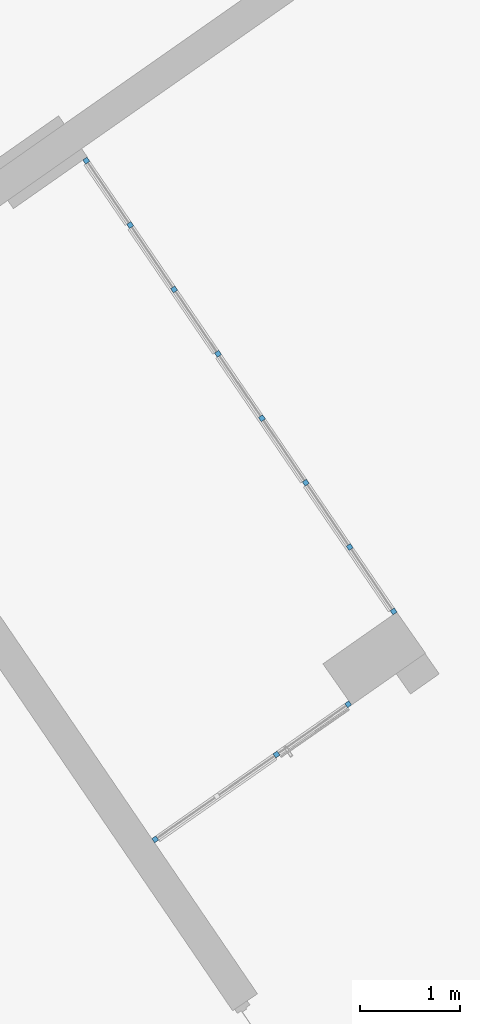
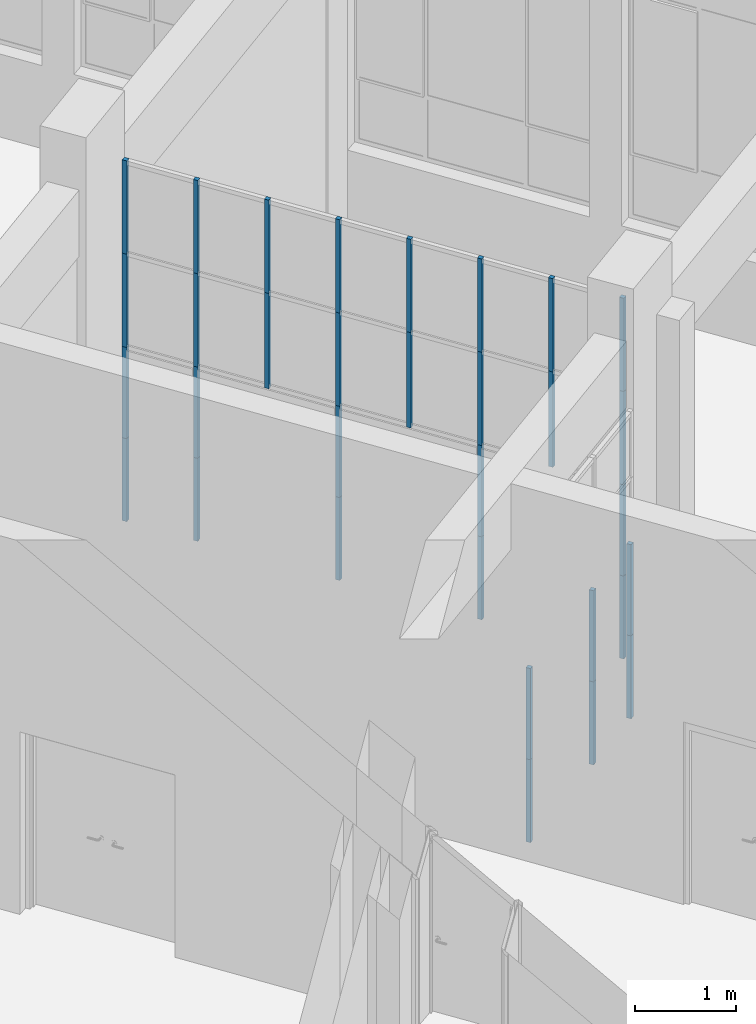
# One storey, part 24 of 157: 32 members, 2 elements without a shape of their own.
"""IFC2X3 building model written with IfcOpenShell, lengths in millimetres."""

from ifc_helpers import new_model, entity, si_unit, converted_unit, derived_unit, direction, frame, origin, origin_2d_with_axis, place, context, subcontext, project, spatial, rectangle, extrude, source, transform, mapped, material, type_object, type_shapes, element, aggregate, save


model = new_model("IFC2X3")

# Units and contexts
model_context = context("Model", 3, precision=0.01, world=origin(), true_north=direction((6.123031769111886e-17, 1.0)))
body_context = subcontext(model_context, "Body", "Model", "MODEL_VIEW")
ifc_project = project(units=[si_unit("LENGTHUNIT", "METRE", prefix="MILLI"), si_unit("AREAUNIT", "SQUARE_METRE"), si_unit("VOLUMEUNIT", "CUBIC_METRE"), converted_unit("PLANEANGLEUNIT", "DEGREE", entity("IfcRatioMeasure", 0.017453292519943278), si_unit("PLANEANGLEUNIT", "RADIAN"), dimensions=[0, 0, 0, 0, 0, 0, 0]), si_unit("MASSUNIT", "GRAM", prefix="KILO"), derived_unit("MASSDENSITYUNIT", [(si_unit("MASSUNIT", "GRAM", prefix="KILO"), 1), (si_unit("LENGTHUNIT", "METRE"), -3)]), derived_unit("MOMENTOFINERTIAUNIT", [(si_unit("LENGTHUNIT", "METRE"), 4)]), si_unit("TIMEUNIT", "SECOND"), si_unit("FREQUENCYUNIT", "HERTZ"), si_unit("THERMODYNAMICTEMPERATUREUNIT", "DEGREE_CELSIUS"), derived_unit("THERMALTRANSMITTANCEUNIT", [(si_unit("MASSUNIT", "GRAM", prefix="KILO"), 1), (si_unit("THERMODYNAMICTEMPERATUREUNIT", "KELVIN"), -1), (si_unit("TIMEUNIT", "SECOND"), -3)]), derived_unit("THERMALCONDUCTANCEUNIT", [(si_unit("MASSUNIT", "GRAM", prefix="KILO"), 1), (si_unit("LENGTHUNIT", "METRE"), 1), (si_unit("THERMODYNAMICTEMPERATUREUNIT", "KELVIN"), -1), (si_unit("TIMEUNIT", "SECOND"), -3)]), derived_unit("VOLUMETRICFLOWRATEUNIT", [(si_unit("LENGTHUNIT", "METRE"), 3), (si_unit("TIMEUNIT", "SECOND"), -1)]), derived_unit("MASSFLOWRATEUNIT", [(si_unit("MASSUNIT", "GRAM", prefix="KILO"), 1), (si_unit("TIMEUNIT", "SECOND"), -1)]), derived_unit("ROTATIONALFREQUENCYUNIT", [(si_unit("TIMEUNIT", "SECOND"), -1)]), si_unit("ELECTRICCURRENTUNIT", "AMPERE"), si_unit("ELECTRICVOLTAGEUNIT", "VOLT"), si_unit("POWERUNIT", "WATT"), converted_unit("FORCEUNIT", "KIP", entity("IfcRatioMeasure", 2.088543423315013e-05), si_unit("FORCEUNIT", "NEWTON"), dimensions=[1, 1, -2, 0, 0, 0, 0]), si_unit("ILLUMINANCEUNIT", "LUX"), si_unit("LUMINOUSFLUXUNIT", "LUMEN"), si_unit("LUMINOUSINTENSITYUNIT", "CANDELA"), derived_unit("USERDEFINED", [(si_unit("MASSUNIT", "GRAM", prefix="KILO"), -1), (si_unit("LENGTHUNIT", "METRE"), -2), (si_unit("TIMEUNIT", "SECOND"), 3), (si_unit("LUMINOUSFLUXUNIT", "LUMEN"), 1)]), derived_unit("USERDEFINED", [(si_unit("MASSUNIT", "GRAM", prefix="KILO"), 1), (si_unit("LENGTHUNIT", "METRE"), 3), (si_unit("TIMEUNIT", "SECOND"), -3), (si_unit("ELECTRICCURRENTUNIT", "AMPERE"), -2)]), derived_unit("USERDEFINED", [(si_unit("LENGTHUNIT", "METRE"), 2), (si_unit("TIMEUNIT", "SECOND"), -2)]), derived_unit("SOUNDPOWERUNIT", [(si_unit("MASSUNIT", "GRAM", prefix="KILO"), 1), (si_unit("LENGTHUNIT", "METRE"), 2), (si_unit("TIMEUNIT", "SECOND"), -3)]), derived_unit("SOUNDPRESSUREUNIT", [(si_unit("MASSUNIT", "GRAM", prefix="KILO"), 1), (si_unit("LENGTHUNIT", "METRE"), -1), (si_unit("TIMEUNIT", "SECOND"), -2)]), derived_unit("LINEARVELOCITYUNIT", [(si_unit("LENGTHUNIT", "METRE"), 1), (si_unit("TIMEUNIT", "SECOND"), -1)]), si_unit("PRESSUREUNIT", "PASCAL"), derived_unit("USERDEFINED", [(si_unit("LENGTHUNIT", "METRE"), -2), (si_unit("MASSUNIT", "GRAM", prefix="KILO"), 1), (si_unit("TIMEUNIT", "SECOND"), -2)]), derived_unit("LINEARFORCEUNIT", [(si_unit("MASSUNIT", "GRAM", prefix="KILO"), 1), (si_unit("LENGTHUNIT", "METRE"), 1), (si_unit("TIMEUNIT", "SECOND"), -2), (si_unit("LENGTHUNIT", "METRE"), -1)]), derived_unit("PLANARFORCEUNIT", [(si_unit("MASSUNIT", "GRAM", prefix="KILO"), 1), (si_unit("LENGTHUNIT", "METRE"), 1), (si_unit("TIMEUNIT", "SECOND"), -2), (si_unit("LENGTHUNIT", "METRE"), -2)]), derived_unit("SPECIFICHEATCAPACITYUNIT", [(si_unit("LENGTHUNIT", "METRE"), 2), (si_unit("TIMEUNIT", "SECOND"), -2), (si_unit("THERMODYNAMICTEMPERATUREUNIT", "KELVIN"), -1)]), derived_unit("VAPORPERMEABILITYUNIT", [(si_unit("TIMEUNIT", "SECOND"), 1), (si_unit("LENGTHUNIT", "METRE"), -1)]), derived_unit("DYNAMICVISCOSITYUNIT", [(si_unit("MASSUNIT", "GRAM", prefix="KILO"), 1), (si_unit("LENGTHUNIT", "METRE"), -1), (si_unit("TIMEUNIT", "SECOND"), -1)]), derived_unit("THERMALEXPANSIONCOEFFICIENTUNIT", [(si_unit("THERMODYNAMICTEMPERATUREUNIT", "KELVIN"), -1)])], contexts=[model_context])

# Site, building, storey
site_placement = place(None, frame((0.0, 0.0, 0.0), z_axis=(0.0, 0.0, 1.0), x_axis=(0.8191520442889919, 0.5735764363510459, 0.0)))
site = spatial("IfcSite", under=ifc_project, at=site_placement, Name="Default", CompositionType="ELEMENT")
building_placement = place(site_placement, origin())
building = spatial("IfcBuilding", under=site, at=building_placement, CompositionType="ELEMENT")
storey_placement = place(building_placement, origin())
storey = spatial("IfcBuildingStorey", under=building, at=storey_placement, Name="1.EG +0.00", CompositionType="ELEMENT", Elevation=-4.331468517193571e-12)

# Curtain wall, members
curtain_wall_type = type_object("IfcCurtainWallType", Name="Curtain Wall:Curtain_Wall_CJC_Int5", PredefinedType="NOTDEFINED")
curtain_wall_1_placement = place(storey_placement, origin())
curtain_wall_1 = element("IfcCurtainWall", 1, at=curtain_wall_1_placement, inside=storey, type_object=curtain_wall_type, Name="Curtain Wall:Curtain_Wall_CJC_Int5", ObjectType="Curtain Wall:Curtain_Wall_CJC_Int5")
ifc_material = material(Name="Aluminium")
member_type_1 = type_object("IfcMemberType", Name="Rectangular Mullion:5x5", PredefinedType="MULLION", material=ifc_material)
shared_shape_1 = source(origin(), body_context, "Body", "SweptSolid", [
    extrude(rectangle(XDim=50.000000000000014, YDim=50.0, at=origin_2d_with_axis()), frame((-25.0, 0.0, -1000.0), z_axis=(0.0, 0.0, 1.0), x_axis=(0.0, -1.0, 0.0)), (0.0, 0.0, 1.0), 1000.0000000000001),
])
type_shapes(member_type_1, [shared_shape_1])
member_1_placement = place(curtain_wall_1_placement, frame((-210986.56385903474, 145771.35891435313, 1000.0)))
member_1 = element("IfcMember", 2, at=member_1_placement, type_object=member_type_1, material=ifc_material, Name="Rectangular Mullion:5x5", ObjectType="Rectangular Mullion:5x5", context=body_context, shape_type="MappedRepresentation", body=[
    mapped(shared_shape_1, transform((0.0, 0.0, 0.0), scale=1.0)),
])
member_type_2 = type_object("IfcMemberType", Name="Rectangular Mullion:5x5", PredefinedType="MULLION", material=ifc_material)
shared_shape_2 = source(origin(), body_context, "Body", "SweptSolid", [
    extrude(rectangle(XDim=50.000000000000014, YDim=50.0, at=origin_2d_with_axis()), frame((-25.0, 0.0, -1100.0), z_axis=(0.0, 0.0, 1.0), x_axis=(0.0, -1.0, 0.0)), (0.0, 0.0, 1.0), 1100.0),
])
type_shapes(member_type_2, [shared_shape_2])
member_2_placement = place(curtain_wall_1_placement, frame((-210986.56385903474, 145771.35891435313, 2100.0)))
member_2 = element("IfcMember", 3, at=member_2_placement, type_object=member_type_2, material=ifc_material, Name="Rectangular Mullion:5x5", ObjectType="Rectangular Mullion:5x5", context=body_context, shape_type="MappedRepresentation", body=[
    mapped(shared_shape_2, transform((0.0, 0.0, 0.0), scale=1.0)),
])

# Curtain wall, member
curtain_wall_2_placement = place(storey_placement, origin())
curtain_wall_2 = element("IfcCurtainWall", 4, at=curtain_wall_2_placement, inside=storey, type_object=curtain_wall_type, Name="Curtain Wall:Curtain_Wall_CJC_Int5", ObjectType="Curtain Wall:Curtain_Wall_CJC_Int5")
member_type_3 = type_object("IfcMemberType", Name="Rectangular Mullion:5x5", PredefinedType="MULLION", material=ifc_material)
shared_shape_3 = source(origin(), body_context, "Body", "SweptSolid", [
    extrude(rectangle(XDim=49.99999999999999, YDim=50.0, at=origin_2d_with_axis()), frame((-25.0, 0.0, -1000.0), z_axis=(0.0, 0.0, 1.0), x_axis=(0.0, -1.0, 0.0)), (0.0, 0.0, 1.0), 999.9999999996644),
])
type_shapes(member_type_3, [shared_shape_3])
member_3_placement = place(curtain_wall_2_placement, frame((-210038.92252079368, 151746.3589143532, 0.0), z_axis=(0.0, 0.0, -1.0), x_axis=(0.012616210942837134, 0.9999204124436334, 0.0)))
member_3 = element("IfcMember", 5, at=member_3_placement, type_object=member_type_3, material=ifc_material, Name="Rectangular Mullion:5x5", ObjectType="Rectangular Mullion:5x5", context=body_context, shape_type="MappedRepresentation", body=[
    mapped(shared_shape_3, transform((0.0, 0.0, 0.0), scale=1.0)),
])

# Member
member_4_placement = place(curtain_wall_1_placement, frame((-213389.67134149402, 145771.35891435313, 0.0), z_axis=(0.0, 0.0, -1.0), x_axis=(-1.0, 0.0, 0.0)))
member_4 = element("IfcMember", 6, at=member_4_placement, type_object=member_type_3, material=ifc_material, Name="Rectangular Mullion:5x5", ObjectType="Rectangular Mullion:5x5", context=body_context, shape_type="MappedRepresentation", body=[
    mapped(shared_shape_3, transform((0.0, 0.0, 0.0), scale=1.0)),
])

member_type_4 = type_object("IfcMemberType", Name="Rectangular Mullion:5x5", PredefinedType="MULLION", material=ifc_material)
shared_shape_4 = source(origin(), body_context, "Body", "SweptSolid", [
    extrude(rectangle(XDim=50.000000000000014, YDim=50.0, at=origin_2d_with_axis()), frame((-25.0, 0.0, -1125.0), z_axis=(0.0, 0.0, 1.0), x_axis=(0.0, -1.0, 0.0)), (0.0, 0.0, 1.0), 1125.0000000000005),
])
type_shapes(member_type_4, [shared_shape_4])
member_5_placement = place(curtain_wall_2_placement, frame((-210108.31720393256, 146246.35891435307, 4350.0), z_axis=(0.0, 0.0, 1.0), x_axis=(-0.012616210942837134, -0.9999204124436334, 0.0)))
member_5 = element("IfcMember", 7, at=member_5_placement, type_object=member_type_4, material=ifc_material, Name="Rectangular Mullion:5x5", ObjectType="Rectangular Mullion:5x5", context=body_context, shape_type="MappedRepresentation", body=[
    mapped(shared_shape_4, transform((0.0, 0.0, 0.0), scale=1.0)),
])

member_type_5 = type_object("IfcMemberType", Name="Rectangular Mullion:5x5", PredefinedType="MULLION", material=ifc_material)
shared_shape_5 = source(origin(), body_context, "Body", "SweptSolid", [
    extrude(rectangle(XDim=50.0, YDim=50.0, at=origin_2d_with_axis()), frame((-25.0, 0.0, -1100.0), z_axis=(0.0, 0.0, 1.0), x_axis=(0.0, -1.0, 0.0)), (0.0, 0.0, 1.0), 1100.0),
])
type_shapes(member_type_5, [shared_shape_5])
member_6_placement = place(curtain_wall_2_placement, frame((-210038.92252079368, 151746.3589143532, 1000.0), z_axis=(0.0, 0.0, -1.0), x_axis=(0.012616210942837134, 0.9999204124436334, 0.0)))
member_6 = element("IfcMember", 8, at=member_6_placement, type_object=member_type_5, material=ifc_material, Name="Rectangular Mullion:5x5", ObjectType="Rectangular Mullion:5x5", context=body_context, shape_type="MappedRepresentation", body=[
    mapped(shared_shape_5, transform((0.0, 0.0, 0.0), scale=1.0)),
])

member_7_placement = place(curtain_wall_1_placement, frame((-213389.67134149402, 145771.35891435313, 1000.0), z_axis=(0.0, 0.0, -1.0), x_axis=(-1.0, 0.0, 0.0)))
member_7 = element("IfcMember", 9, at=member_7_placement, type_object=member_type_5, material=ifc_material, Name="Rectangular Mullion:5x5", ObjectType="Rectangular Mullion:5x5", context=body_context, shape_type="MappedRepresentation", body=[
    mapped(shared_shape_5, transform((0.0, 0.0, 0.0), scale=1.0)),
])

member_type_6 = type_object("IfcMemberType", Name="Rectangular Mullion:5x5", PredefinedType="MULLION", material=ifc_material)
shared_shape_6 = source(origin(), body_context, "Body", "SweptSolid", [
    extrude(rectangle(XDim=50.0, YDim=50.0, at=origin_2d_with_axis()), frame((-25.0, 0.0, -1125.0), z_axis=(0.0, 0.0, 1.0), x_axis=(0.0, -1.0, 0.0)), (0.0, 0.0, 1.0), 1124.9999999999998),
])
type_shapes(member_type_6, [shared_shape_6])
member_8_placement = place(curtain_wall_2_placement, frame((-210038.92252079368, 151746.3589143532, 2100.0), z_axis=(0.0, 0.0, -1.0), x_axis=(0.012616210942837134, 0.9999204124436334, 0.0)))
member_8 = element("IfcMember", 10, at=member_8_placement, type_object=member_type_6, material=ifc_material, Name="Rectangular Mullion:5x5", ObjectType="Rectangular Mullion:5x5", context=body_context, shape_type="MappedRepresentation", body=[
    mapped(shared_shape_6, transform((0.0, 0.0, 0.0), scale=1.0)),
])

member_type_7 = type_object("IfcMemberType", Name="Rectangular Mullion:5x5", PredefinedType="MULLION", material=ifc_material)
shared_shape_7 = source(origin(), body_context, "Body", "SweptSolid", [
    extrude(rectangle(XDim=50.0, YDim=50.0, at=origin_2d_with_axis()), frame((-25.0, 0.0, -1125.0), z_axis=(0.0, 0.0, 1.0), x_axis=(0.0, -1.0, 0.0)), (0.0, 0.0, 1.0), 1125.0000000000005),
])
type_shapes(member_type_7, [shared_shape_7])
member_9_placement = place(curtain_wall_2_placement, frame((-210038.92252079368, 151746.3589143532, 3225.0), z_axis=(0.0, 0.0, -1.0), x_axis=(0.012616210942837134, 0.9999204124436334, 0.0)))
member_9 = element("IfcMember", 11, at=member_9_placement, type_object=member_type_7, material=ifc_material, Name="Rectangular Mullion:5x5", ObjectType="Rectangular Mullion:5x5", context=body_context, shape_type="MappedRepresentation", body=[
    mapped(shared_shape_7, transform((0.0, 0.0, 0.0), scale=1.0)),
])

member_type_8 = type_object("IfcMemberType", Name="Rectangular Mullion:5x5", PredefinedType="MULLION", material=ifc_material)
shared_shape_8 = source(origin(), body_context, "Body", "SweptSolid", [
    extrude(rectangle(XDim=50.0, YDim=50.0, at=origin_2d_with_axis()), frame((-25.0, 0.0, -1000.0), z_axis=(0.0, 0.0, 1.0), x_axis=(0.0, -1.0, 0.0)), (0.0, 0.0, 1.0), 999.9999999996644),
])
type_shapes(member_type_8, [shared_shape_8])
member_10_placement = place(curtain_wall_2_placement, frame((-210108.31720393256, 146246.35891435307, 1000.0), z_axis=(0.0, 0.0, 1.0), x_axis=(-0.012616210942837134, -0.9999204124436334, 0.0)))
member_10 = element("IfcMember", 12, at=member_10_placement, type_object=member_type_8, material=ifc_material, Name="Rectangular Mullion:5x5", ObjectType="Rectangular Mullion:5x5", context=body_context, shape_type="MappedRepresentation", body=[
    mapped(shared_shape_8, transform((0.0, 0.0, 0.0), scale=1.0)),
])

member_type_9 = type_object("IfcMemberType", Name="Rectangular Mullion:5x5", PredefinedType="MULLION", material=ifc_material)
shared_shape_9 = source(origin(), body_context, "Body", "SweptSolid", [
    extrude(rectangle(XDim=50.000000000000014, YDim=50.0, at=origin_2d_with_axis()), frame((-25.0, 0.0, -1100.0), z_axis=(0.0, 0.0, 1.0), x_axis=(0.0, -1.0, 0.0)), (0.0, 0.0, 1.0), 1099.9999999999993),
])
type_shapes(member_type_9, [shared_shape_9])
member_11_placement = place(curtain_wall_2_placement, frame((-210108.31720393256, 146246.35891435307, 2100.0), z_axis=(0.0, 0.0, 1.0), x_axis=(-0.012616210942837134, -0.9999204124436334, 0.0)))
member_11 = element("IfcMember", 13, at=member_11_placement, type_object=member_type_9, material=ifc_material, Name="Rectangular Mullion:5x5", ObjectType="Rectangular Mullion:5x5", context=body_context, shape_type="MappedRepresentation", body=[
    mapped(shared_shape_9, transform((0.0, 0.0, 0.0), scale=1.0)),
])

member_type_10 = type_object("IfcMemberType", Name="Rectangular Mullion:5x5", PredefinedType="MULLION", material=ifc_material)
shared_shape_10 = source(origin(), body_context, "Body", "SweptSolid", [
    extrude(rectangle(XDim=50.000000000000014, YDim=50.0, at=origin_2d_with_axis()), frame((-25.0, 0.0, -1125.0), z_axis=(0.0, 0.0, 1.0), x_axis=(0.0, -1.0, 0.0)), (0.0, 0.0, 1.0), 1124.9999999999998),
])
type_shapes(member_type_10, [shared_shape_10])
member_12_placement = place(curtain_wall_2_placement, frame((-210108.31720393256, 146246.35891435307, 3225.0), z_axis=(0.0, 0.0, 1.0), x_axis=(-0.012616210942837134, -0.9999204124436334, 0.0)))
member_12 = element("IfcMember", 14, at=member_12_placement, type_object=member_type_10, material=ifc_material, Name="Rectangular Mullion:5x5", ObjectType="Rectangular Mullion:5x5", context=body_context, shape_type="MappedRepresentation", body=[
    mapped(shared_shape_10, transform((0.0, 0.0, 0.0), scale=1.0)),
])

member_type_11 = type_object("IfcMemberType", Name="Rectangular Mullion:5x5", PredefinedType="MULLION", material=ifc_material)
shared_shape_11 = source(origin(), body_context, "Body", "SweptSolid", [
    extrude(rectangle(XDim=50.0, YDim=50.0, at=origin_2d_with_axis()), frame((0.0, 0.0, -1000.0), z_axis=(0.0, 0.0, 1.0), x_axis=(0.0, -1.0, 0.0)), (0.0, 0.0, 1.0), 1000.0000000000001),
])
type_shapes(member_type_11, [shared_shape_11])
member_13_placement = place(curtain_wall_2_placement, frame((-210088.35497791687, 147828.50091890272, 0.0), z_axis=(0.0, 0.0, -1.0), x_axis=(0.012616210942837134, 0.9999204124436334, 0.0)))
member_13 = element("IfcMember", 15, at=member_13_placement, type_object=member_type_11, material=ifc_material, Name="Rectangular Mullion:5x5", ObjectType="Rectangular Mullion:5x5", context=body_context, shape_type="MappedRepresentation", body=[
    mapped(shared_shape_11, transform((0.0, 0.0, 0.0), scale=1.0)),
])

member_14_placement = place(curtain_wall_2_placement, frame((-210068.70815717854, 149385.64491283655, 0.0), z_axis=(0.0, 0.0, -1.0), x_axis=(0.012616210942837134, 0.9999204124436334, 0.0)))
member_14 = element("IfcMember", 16, at=member_14_placement, type_object=member_type_11, material=ifc_material, Name="Rectangular Mullion:5x5", ObjectType="Rectangular Mullion:5x5", context=body_context, shape_type="MappedRepresentation", body=[
    mapped(shared_shape_11, transform((0.0, 0.0, 0.0), scale=1.0)),
])

member_15_placement = place(curtain_wall_2_placement, frame((-210049.06133644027, 150942.78890677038, 0.0), z_axis=(0.0, 0.0, -1.0), x_axis=(0.012616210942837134, 0.9999204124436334, 0.0)))
member_15 = element("IfcMember", 17, at=member_15_placement, type_object=member_type_11, material=ifc_material, Name="Rectangular Mullion:5x5", ObjectType="Rectangular Mullion:5x5", context=body_context, shape_type="MappedRepresentation", body=[
    mapped(shared_shape_11, transform((0.0, 0.0, 0.0), scale=1.0)),
])

member_16_placement = place(curtain_wall_1_placement, frame((-211886.56385903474, 145771.35891435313, 0.0), z_axis=(0.0, 0.0, -1.0), x_axis=(-1.0, 0.0, 0.0)))
member_16 = element("IfcMember", 18, at=member_16_placement, type_object=member_type_11, material=ifc_material, Name="Rectangular Mullion:5x5", ObjectType="Rectangular Mullion:5x5", context=body_context, shape_type="MappedRepresentation", body=[
    mapped(shared_shape_11, transform((0.0, 0.0, 0.0), scale=1.0)),
])

member_type_12 = type_object("IfcMemberType", Name="Rectangular Mullion:5x5", PredefinedType="MULLION", material=ifc_material)
shared_shape_12 = source(origin(), body_context, "Body", "SweptSolid", [
    extrude(rectangle(XDim=50.0, YDim=50.0, at=origin_2d_with_axis()), frame((0.0, 0.0, -1100.0), z_axis=(0.0, 0.0, 1.0), x_axis=(0.0, -1.0, 0.0)), (0.0, 0.0, 1.0), 1100.0),
])
type_shapes(member_type_12, [shared_shape_12])
member_17_placement = place(curtain_wall_2_placement, frame((-210088.35497791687, 147828.50091890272, 1000.0), z_axis=(0.0, 0.0, -1.0), x_axis=(0.012616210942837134, 0.9999204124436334, 0.0)))
member_17 = element("IfcMember", 19, at=member_17_placement, type_object=member_type_12, material=ifc_material, Name="Rectangular Mullion:5x5", ObjectType="Rectangular Mullion:5x5", context=body_context, shape_type="MappedRepresentation", body=[
    mapped(shared_shape_12, transform((0.0, 0.0, 0.0), scale=1.0)),
])

member_18_placement = place(curtain_wall_2_placement, frame((-210068.70815717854, 149385.64491283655, 1000.0), z_axis=(0.0, 0.0, -1.0), x_axis=(0.012616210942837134, 0.9999204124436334, 0.0)))
member_18 = element("IfcMember", 20, at=member_18_placement, type_object=member_type_12, material=ifc_material, Name="Rectangular Mullion:5x5", ObjectType="Rectangular Mullion:5x5", context=body_context, shape_type="MappedRepresentation", body=[
    mapped(shared_shape_12, transform((0.0, 0.0, 0.0), scale=1.0)),
])

member_19_placement = place(curtain_wall_2_placement, frame((-210049.06133644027, 150942.78890677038, 1000.0), z_axis=(0.0, 0.0, -1.0), x_axis=(0.012616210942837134, 0.9999204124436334, 0.0)))
member_19 = element("IfcMember", 21, at=member_19_placement, type_object=member_type_12, material=ifc_material, Name="Rectangular Mullion:5x5", ObjectType="Rectangular Mullion:5x5", context=body_context, shape_type="MappedRepresentation", body=[
    mapped(shared_shape_12, transform((0.0, 0.0, 0.0), scale=1.0)),
])

member_20_placement = place(curtain_wall_1_placement, frame((-211886.56385903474, 145771.35891435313, 1000.0), z_axis=(0.0, 0.0, -1.0), x_axis=(-1.0, 0.0, 0.0)))
member_20 = element("IfcMember", 22, at=member_20_placement, type_object=member_type_12, material=ifc_material, Name="Rectangular Mullion:5x5", ObjectType="Rectangular Mullion:5x5", context=body_context, shape_type="MappedRepresentation", body=[
    mapped(shared_shape_12, transform((0.0, 0.0, 0.0), scale=1.0)),
])

aggregate(curtain_wall_1, [member_4, member_7, member_1, member_2, member_16, member_20])

member_type_13 = type_object("IfcMemberType", Name="Rectangular Mullion:5x5", PredefinedType="MULLION", material=ifc_material)
shared_shape_13 = source(origin(), body_context, "Body", "SweptSolid", [
    extrude(rectangle(XDim=50.0, YDim=50.0, at=origin_2d_with_axis()), frame((0.0, 0.0, -1150.0), z_axis=(0.0, 0.0, 1.0), x_axis=(0.0, -1.0, 0.0)), (0.0, 0.0, 1.0), 1149.9999999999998),
])
type_shapes(member_type_13, [shared_shape_13])
member_21_placement = place(curtain_wall_2_placement, frame((-210098.178388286, 147049.92892193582, 2075.0), z_axis=(0.0, 0.0, -1.0), x_axis=(0.012616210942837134, 0.9999204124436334, 0.0)))
member_21 = element("IfcMember", 23, at=member_21_placement, type_object=member_type_13, material=ifc_material, Name="Rectangular Mullion:5x5", ObjectType="Rectangular Mullion:5x5", context=body_context, shape_type="MappedRepresentation", body=[
    mapped(shared_shape_13, transform((0.0, 0.0, 0.0), scale=1.0)),
])

member_22_placement = place(curtain_wall_2_placement, frame((-210078.5315675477, 148607.07291586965, 2075.0), z_axis=(0.0, 0.0, -1.0), x_axis=(0.012616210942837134, 0.9999204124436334, 0.0)))
member_22 = element("IfcMember", 24, at=member_22_placement, type_object=member_type_13, material=ifc_material, Name="Rectangular Mullion:5x5", ObjectType="Rectangular Mullion:5x5", context=body_context, shape_type="MappedRepresentation", body=[
    mapped(shared_shape_13, transform((0.0, 0.0, 0.0), scale=1.0)),
])

member_23_placement = place(curtain_wall_2_placement, frame((-210058.8847468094, 150164.21690980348, 2075.0), z_axis=(0.0, 0.0, -1.0), x_axis=(0.012616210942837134, 0.9999204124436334, 0.0)))
member_23 = element("IfcMember", 25, at=member_23_placement, type_object=member_type_13, material=ifc_material, Name="Rectangular Mullion:5x5", ObjectType="Rectangular Mullion:5x5", context=body_context, shape_type="MappedRepresentation", body=[
    mapped(shared_shape_13, transform((0.0, 0.0, 0.0), scale=1.0)),
])

member_type_14 = type_object("IfcMemberType", Name="Rectangular Mullion:5x5", PredefinedType="MULLION", material=ifc_material)
shared_shape_14 = source(origin(), body_context, "Body", "SweptSolid", [
    extrude(rectangle(XDim=50.0, YDim=50.0, at=origin_2d_with_axis()), frame((0.0, 0.0, -1125.0), z_axis=(0.0, 0.0, 1.0), x_axis=(0.0, -1.0, 0.0)), (0.0, 0.0, 1.0), 1124.9999999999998),
])
type_shapes(member_type_14, [shared_shape_14])
member_24_placement = place(curtain_wall_2_placement, frame((-210088.35497791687, 147828.50091890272, 2100.0), z_axis=(0.0, 0.0, -1.0), x_axis=(0.012616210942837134, 0.9999204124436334, 0.0)))
member_24 = element("IfcMember", 26, at=member_24_placement, type_object=member_type_14, material=ifc_material, Name="Rectangular Mullion:5x5", ObjectType="Rectangular Mullion:5x5", context=body_context, shape_type="MappedRepresentation", body=[
    mapped(shared_shape_14, transform((0.0, 0.0, 0.0), scale=1.0)),
])

member_25_placement = place(curtain_wall_2_placement, frame((-210068.70815717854, 149385.64491283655, 2100.0), z_axis=(0.0, 0.0, -1.0), x_axis=(0.012616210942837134, 0.9999204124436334, 0.0)))
member_25 = element("IfcMember", 27, at=member_25_placement, type_object=member_type_14, material=ifc_material, Name="Rectangular Mullion:5x5", ObjectType="Rectangular Mullion:5x5", context=body_context, shape_type="MappedRepresentation", body=[
    mapped(shared_shape_14, transform((0.0, 0.0, 0.0), scale=1.0)),
])

member_26_placement = place(curtain_wall_2_placement, frame((-210049.06133644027, 150942.78890677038, 2100.0), z_axis=(0.0, 0.0, -1.0), x_axis=(0.012616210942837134, 0.9999204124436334, 0.0)))
member_26 = element("IfcMember", 28, at=member_26_placement, type_object=member_type_14, material=ifc_material, Name="Rectangular Mullion:5x5", ObjectType="Rectangular Mullion:5x5", context=body_context, shape_type="MappedRepresentation", body=[
    mapped(shared_shape_14, transform((0.0, 0.0, 0.0), scale=1.0)),
])

member_type_15 = type_object("IfcMemberType", Name="Rectangular Mullion:5x5", PredefinedType="MULLION", material=ifc_material)
shared_shape_15 = source(origin(), body_context, "Body", "SweptSolid", [
    extrude(rectangle(XDim=50.0, YDim=50.0, at=origin_2d_with_axis()), frame((0.0, 0.0, -1125.0), z_axis=(0.0, 0.0, 1.0), x_axis=(0.0, -1.0, 0.0)), (0.0, 0.0, 1.0), 1124.9999999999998),
])
type_shapes(member_type_15, [shared_shape_15])
member_27_placement = place(curtain_wall_2_placement, frame((-210098.178388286, 147049.92892193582, 3225.0), z_axis=(0.0, 0.0, -1.0), x_axis=(0.012616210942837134, 0.9999204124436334, 0.0)))
member_27 = element("IfcMember", 29, at=member_27_placement, type_object=member_type_15, material=ifc_material, Name="Rectangular Mullion:5x5", ObjectType="Rectangular Mullion:5x5", context=body_context, shape_type="MappedRepresentation", body=[
    mapped(shared_shape_15, transform((0.0, 0.0, 0.0), scale=1.0)),
])

member_28_placement = place(curtain_wall_2_placement, frame((-210088.35497791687, 147828.50091890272, 3225.0), z_axis=(0.0, 0.0, -1.0), x_axis=(0.012616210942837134, 0.9999204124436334, 0.0)))
member_28 = element("IfcMember", 30, at=member_28_placement, type_object=member_type_15, material=ifc_material, Name="Rectangular Mullion:5x5", ObjectType="Rectangular Mullion:5x5", context=body_context, shape_type="MappedRepresentation", body=[
    mapped(shared_shape_15, transform((0.0, 0.0, 0.0), scale=1.0)),
])

member_29_placement = place(curtain_wall_2_placement, frame((-210078.5315675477, 148607.07291586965, 3225.0), z_axis=(0.0, 0.0, -1.0), x_axis=(0.012616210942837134, 0.9999204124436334, 0.0)))
member_29 = element("IfcMember", 31, at=member_29_placement, type_object=member_type_15, material=ifc_material, Name="Rectangular Mullion:5x5", ObjectType="Rectangular Mullion:5x5", context=body_context, shape_type="MappedRepresentation", body=[
    mapped(shared_shape_15, transform((0.0, 0.0, 0.0), scale=1.0)),
])

member_30_placement = place(curtain_wall_2_placement, frame((-210068.70815717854, 149385.64491283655, 3225.0), z_axis=(0.0, 0.0, -1.0), x_axis=(0.012616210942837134, 0.9999204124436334, 0.0)))
member_30 = element("IfcMember", 32, at=member_30_placement, type_object=member_type_15, material=ifc_material, Name="Rectangular Mullion:5x5", ObjectType="Rectangular Mullion:5x5", context=body_context, shape_type="MappedRepresentation", body=[
    mapped(shared_shape_15, transform((0.0, 0.0, 0.0), scale=1.0)),
])

member_31_placement = place(curtain_wall_2_placement, frame((-210058.8847468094, 150164.21690980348, 3225.0), z_axis=(0.0, 0.0, -1.0), x_axis=(0.012616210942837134, 0.9999204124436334, 0.0)))
member_31 = element("IfcMember", 33, at=member_31_placement, type_object=member_type_15, material=ifc_material, Name="Rectangular Mullion:5x5", ObjectType="Rectangular Mullion:5x5", context=body_context, shape_type="MappedRepresentation", body=[
    mapped(shared_shape_15, transform((0.0, 0.0, 0.0), scale=1.0)),
])

member_32_placement = place(curtain_wall_2_placement, frame((-210049.06133644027, 150942.78890677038, 3225.0), z_axis=(0.0, 0.0, -1.0), x_axis=(0.012616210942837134, 0.9999204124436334, 0.0)))
member_32 = element("IfcMember", 34, at=member_32_placement, type_object=member_type_15, material=ifc_material, Name="Rectangular Mullion:5x5", ObjectType="Rectangular Mullion:5x5", context=body_context, shape_type="MappedRepresentation", body=[
    mapped(shared_shape_15, transform((0.0, 0.0, 0.0), scale=1.0)),
])

aggregate(curtain_wall_2, [member_3, member_5, member_6, member_8, member_9, member_10, member_11, member_12, member_13, member_14, member_17, member_18, member_21, member_24, member_22, member_25, member_27, member_28, member_29, member_30, member_15, member_19, member_23, member_26, member_31, member_32])

save(model, "model.ifc")
